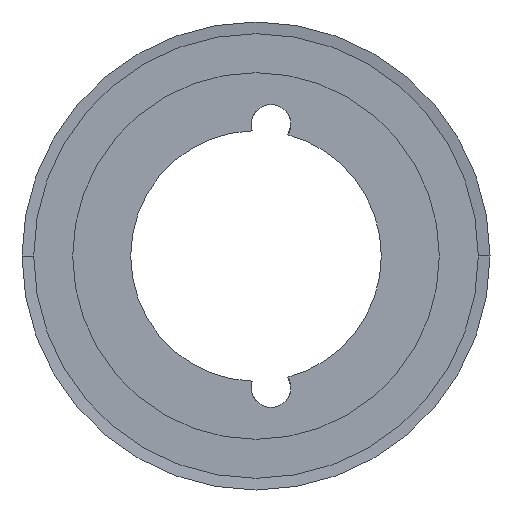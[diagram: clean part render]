
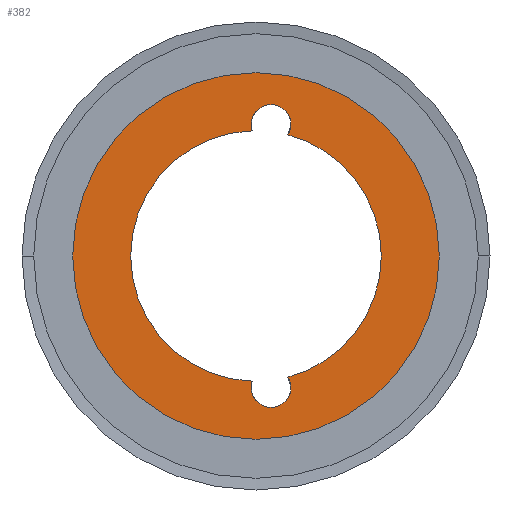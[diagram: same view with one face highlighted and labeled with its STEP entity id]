
A CAD part, left-side view. The second image highlights one B-rep face of the part: STEP entity #382.
In plain terms, the highlighted planar face has unit normal (-1, 0, 0).
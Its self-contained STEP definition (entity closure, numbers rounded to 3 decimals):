
#382 = ADVANCED_FACE( '', ( #1003, #1004 ), #1005, .T. );
#1003 = FACE_BOUND( '', #1625, .T. );
#1004 = FACE_OUTER_BOUND( '', #1626, .T. );
#1005 = PLANE( '', #1627 );
#1625 = EDGE_LOOP( '', ( #4331, #4332, #4333, #4334, #4335, #4336, #4337, #4338, #4339, #4340 ) );
#1626 = EDGE_LOOP( '', ( #4341, #4342 ) );
#1627 = AXIS2_PLACEMENT_3D( '', #4343, #4344, #4345 );
#4331 = ORIENTED_EDGE( '', *, *, #4404, .T. );
#4332 = ORIENTED_EDGE( '', *, *, #4407, .T. );
#4333 = ORIENTED_EDGE( '', *, *, #4406, .T. );
#4334 = ORIENTED_EDGE( '', *, *, #4399, .F. );
#4335 = ORIENTED_EDGE( '', *, *, #4411, .F. );
#4336 = ORIENTED_EDGE( '', *, *, #4415, .T. );
#4337 = ORIENTED_EDGE( '', *, *, #4391, .T. );
#4338 = ORIENTED_EDGE( '', *, *, #4386, .T. );
#4339 = ORIENTED_EDGE( '', *, *, #4412, .F. );
#4340 = ORIENTED_EDGE( '', *, *, #4397, .F. );
#4341 = ORIENTED_EDGE( '', *, *, #4349, .T. );
#4342 = ORIENTED_EDGE( '', *, *, #5242, .T. );
#4343 = CARTESIAN_POINT( '', ( 0., 19.781, 0. ) );
#4344 = DIRECTION( '', ( -1., 0., 0. ) );
#4345 = DIRECTION( '', ( 0., 1., 0. ) );
#4349 = EDGE_CURVE( '', #5244, #5248, #5250, .T. );
#4386 = EDGE_CURVE( '', #5312, #5315, #5317, .T. );
#4391 = EDGE_CURVE( '', #5319, #5312, #5326, .T. );
#4397 = EDGE_CURVE( '', #5335, #5327, #5337, .T. );
#4399 = EDGE_CURVE( '', #5338, #5341, #5342, .T. );
#4404 = EDGE_CURVE( '', #5335, #5348, #5350, .T. );
#4406 = EDGE_CURVE( '', #5351, #5341, #5353, .T. );
#4407 = EDGE_CURVE( '', #5348, #5351, #5354, .T. );
#4411 = EDGE_CURVE( '', #5357, #5338, #5359, .T. );
#4412 = EDGE_CURVE( '', #5327, #5315, #5360, .T. );
#4415 = EDGE_CURVE( '', #5357, #5319, #5363, .T. );
#5242 = EDGE_CURVE( '', #5248, #5244, #6734, .T. );
#5244 = VERTEX_POINT( '', #6736 );
#5248 = VERTEX_POINT( '', #6741 );
#5250 = CIRCLE( '', #6744, 23.5 );
#5312 = VERTEX_POINT( '', #6853 );
#5315 = VERTEX_POINT( '', #6857 );
#5317 = CIRCLE( '', #6868, 2.55 );
#5319 = VERTEX_POINT( '', #6870 );
#5326 = CIRCLE( '', #6896, 2.55 );
#5327 = VERTEX_POINT( '', #6897 );
#5335 = VERTEX_POINT( '', #6920 );
#5337 = CIRCLE( '', #6931, 16.062 );
#5338 = VERTEX_POINT( '', #6932 );
#5341 = VERTEX_POINT( '', #6936 );
#5342 = CIRCLE( '', #6937, 16.062 );
#5348 = VERTEX_POINT( '', #6961 );
#5350 = CIRCLE( '', #6964, 2.55 );
#5351 = VERTEX_POINT( '', #6965 );
#5353 = CIRCLE( '', #6968, 2.55 );
#5354 = CIRCLE( '', #6969, 2.55 );
#5357 = VERTEX_POINT( '', #6972 );
#5359 = CIRCLE( '', #6983, 16.062 );
#5360 = CIRCLE( '', #6984, 16.062 );
#5363 = CIRCLE( '', #7012, 2.55 );
#6734 = CIRCLE( '', #8859, 23.5 );
#6736 = CARTESIAN_POINT( '', ( 0., 23.5, 0. ) );
#6741 = CARTESIAN_POINT( '', ( 0., -23.5, 0. ) );
#6744 = AXIS2_PLACEMENT_3D( '', #8865, #8866, #8867 );
#6853 = CARTESIAN_POINT( '', ( 0., 0.625, -16.865 ) );
#6857 = CARTESIAN_POINT( '', ( 0., 0.493, -16.054 ) );
#6868 = AXIS2_PLACEMENT_3D( '', #8931, #8932, #8933 );
#6870 = CARTESIAN_POINT( '', ( 0., -4.475, -16.865 ) );
#6896 = AXIS2_PLACEMENT_3D( '', #8938, #8939, #8940 );
#6897 = CARTESIAN_POINT( '', ( 0., 16.062, 0. ) );
#6920 = CARTESIAN_POINT( '', ( 0., 0.493, 16.054 ) );
#6931 = AXIS2_PLACEMENT_3D( '', #8945, #8946, #8947 );
#6932 = CARTESIAN_POINT( '', ( 0., -16.062, 0. ) );
#6936 = CARTESIAN_POINT( '', ( 0., -4.097, 15.53 ) );
#6937 = AXIS2_PLACEMENT_3D( '', #8949, #8950, #8951 );
#6961 = CARTESIAN_POINT( '', ( 0., 0.625, 16.865 ) );
#6964 = AXIS2_PLACEMENT_3D( '', #8956, #8957, #8958 );
#6965 = CARTESIAN_POINT( '', ( 0., -4.475, 16.865 ) );
#6968 = AXIS2_PLACEMENT_3D( '', #8960, #8961, #8962 );
#6969 = AXIS2_PLACEMENT_3D( '', #8963, #8964, #8965 );
#6972 = CARTESIAN_POINT( '', ( 0., -4.097, -15.53 ) );
#6983 = AXIS2_PLACEMENT_3D( '', #8972, #8973, #8974 );
#6984 = AXIS2_PLACEMENT_3D( '', #8975, #8976, #8977 );
#7012 = AXIS2_PLACEMENT_3D( '', #8981, #8982, #8983 );
#8859 = AXIS2_PLACEMENT_3D( '', #10510, #10511, #10512 );
#8865 = CARTESIAN_POINT( '', ( 0., 0., 0. ) );
#8866 = DIRECTION( '', ( -1., 0., 0. ) );
#8867 = DIRECTION( '', ( 0., 1., 0. ) );
#8931 = CARTESIAN_POINT( '', ( 0., -1.925, -16.865 ) );
#8932 = DIRECTION( '', ( 1., 0., 0. ) );
#8933 = DIRECTION( '', ( 0., -1., 0. ) );
#8938 = CARTESIAN_POINT( '', ( 0., -1.925, -16.865 ) );
#8939 = DIRECTION( '', ( 1., 0., 0. ) );
#8940 = DIRECTION( '', ( 0., -1., 0. ) );
#8945 = CARTESIAN_POINT( '', ( 0., 0., 0. ) );
#8946 = DIRECTION( '', ( -1., 0., 0. ) );
#8947 = DIRECTION( '', ( 0., 1., 0. ) );
#8949 = CARTESIAN_POINT( '', ( 0., 0., 0. ) );
#8950 = DIRECTION( '', ( -1., 0., 0. ) );
#8951 = DIRECTION( '', ( 0., 1., 0. ) );
#8956 = CARTESIAN_POINT( '', ( 0., -1.925, 16.865 ) );
#8957 = DIRECTION( '', ( 1., 0., 0. ) );
#8958 = DIRECTION( '', ( 0., -1., 0. ) );
#8960 = CARTESIAN_POINT( '', ( 0., -1.925, 16.865 ) );
#8961 = DIRECTION( '', ( 1., 0., 0. ) );
#8962 = DIRECTION( '', ( 0., -1., 0. ) );
#8963 = CARTESIAN_POINT( '', ( 0., -1.925, 16.865 ) );
#8964 = DIRECTION( '', ( 1., 0., 0. ) );
#8965 = DIRECTION( '', ( 0., -1., 0. ) );
#8972 = CARTESIAN_POINT( '', ( 0., 0., 0. ) );
#8973 = DIRECTION( '', ( -1., 0., 0. ) );
#8974 = DIRECTION( '', ( 0., 1., 0. ) );
#8975 = CARTESIAN_POINT( '', ( 0., 0., 0. ) );
#8976 = DIRECTION( '', ( -1., 0., 0. ) );
#8977 = DIRECTION( '', ( 0., 1., 0. ) );
#8981 = CARTESIAN_POINT( '', ( 0., -1.925, -16.865 ) );
#8982 = DIRECTION( '', ( 1., 0., 0. ) );
#8983 = DIRECTION( '', ( 0., -1., 0. ) );
#10510 = CARTESIAN_POINT( '', ( 0., 0., 0. ) );
#10511 = DIRECTION( '', ( -1., 0., 0. ) );
#10512 = DIRECTION( '', ( 0., 1., 0. ) );
